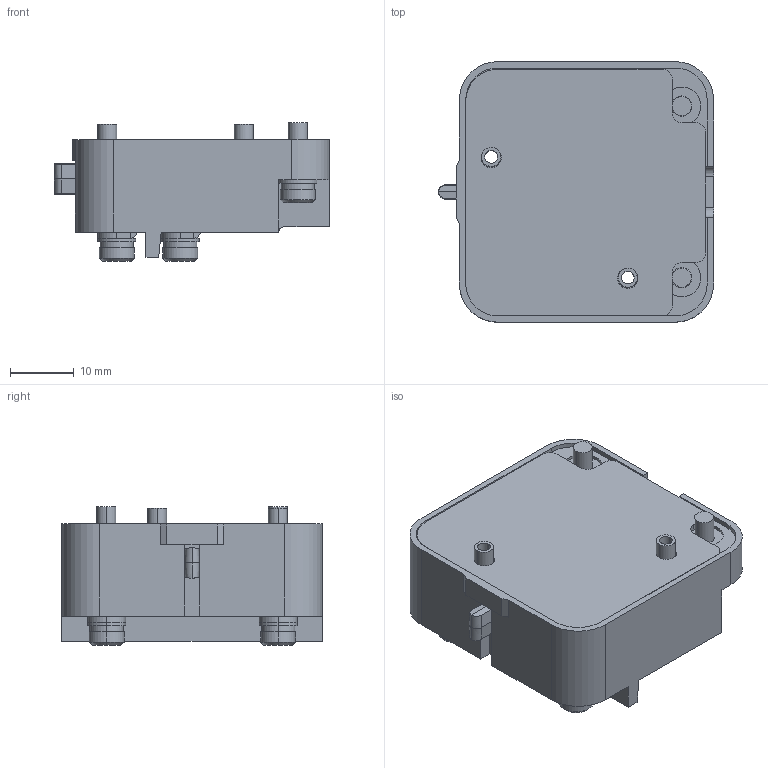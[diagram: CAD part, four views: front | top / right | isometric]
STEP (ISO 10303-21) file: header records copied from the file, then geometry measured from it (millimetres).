
FILE_DESCRIPTION (( 'STEP AP214' ), '1' );
FILE_NAME ('Êîíòàêò ñâîáîäíûé ÏÍÁ5,ÏÏ57,ÏÏ60Ñ-Ó3-ÊÝÀÇ.STEP', '2023-05-24T06:17:46', ( '' ), ( '' ), 'SwSTEP 2.0', 'SolidWorks 2018', '' );
FILE_SCHEMA (( 'AUTOMOTIVE_DESIGN' ));
Length unit declared in the file: millimetre
Products named in the file (1): Êîíòàêò ñâîáîäíûé ÏÍÁ5,ÏÏ57,ÏÏ60Ñ-Ó3-ÊÝÀÇ
Bounding box: 43.3 x 41 x 21.8 mm (x, y, z)
Volume: 22131.4 mm3; surface area: 12375.4 mm2
Topology: 22 solids, 23 shells, 519 faces, 1256 edges, 809 vertices
Faces by surface type: plane 232, cylinder 199, torus 54, cone 18, bspline 16
Entity records: 24511 total; most frequent: CARTESIAN_POINT 6689, DIRECTION 2580, ORIENTED_EDGE 2512, EDGE_CURVE 1256, AXIS2_PLACEMENT_3D 958, VERTEX_POINT 809, VECTOR 664, LINE 664
